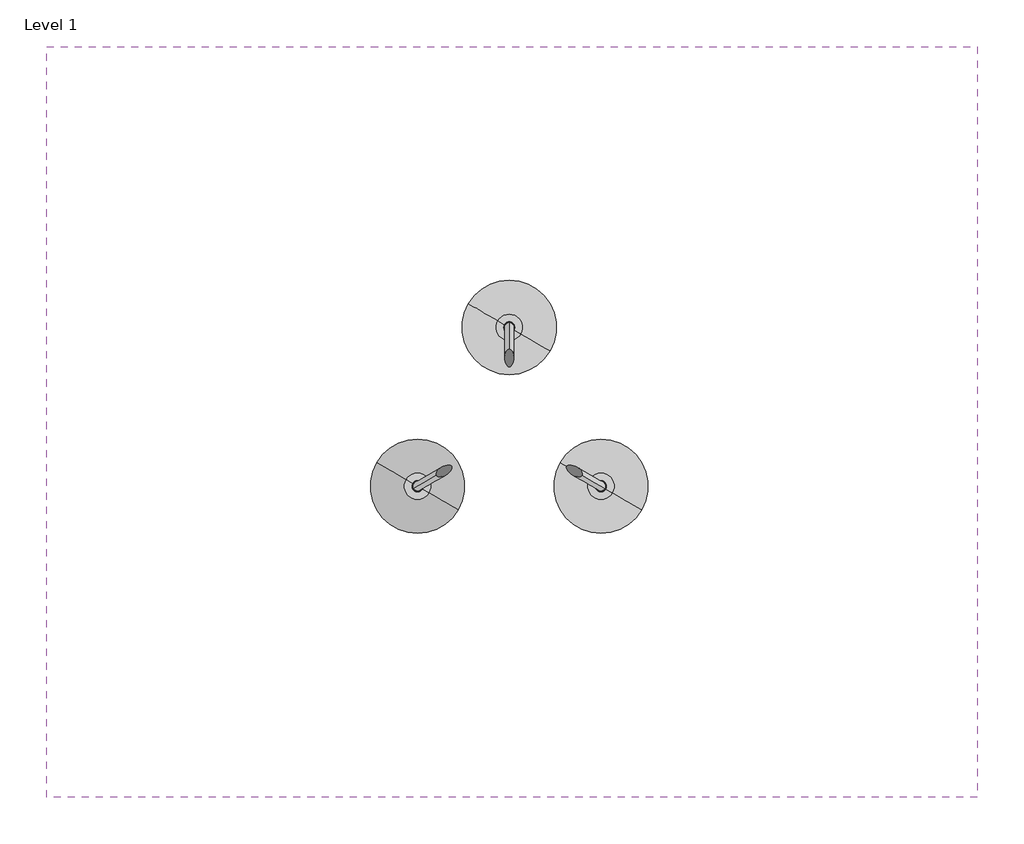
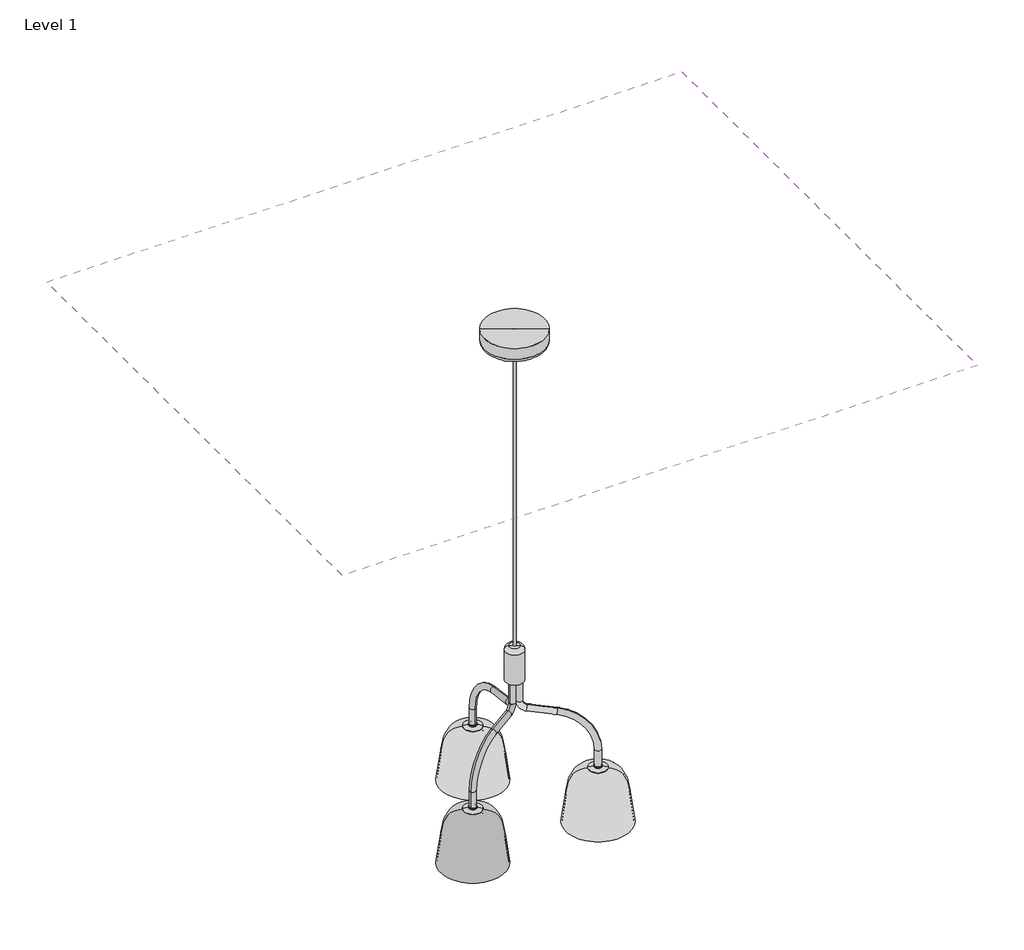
# One storey: 1 covering, 1 light fixture.
"""IFC4 building model written with IfcOpenShell, lengths in millimetres."""

from ifc_helpers import new_model, si_unit, frame, origin, place, context, project, spatial, polyline, outline, extrude, transform, mapped, element, save
from components import light_fixture_08d55318, light_fixture_d8af2c10

model = new_model("IFC4")

# Units and contexts
model_context = context("Model", 3, world=origin())
ifc_project = project(units=[si_unit("LENGTHUNIT", "METRE", prefix="MILLI")], contexts=[model_context])

# Site, building, storey
site = spatial("IfcSite", under=ifc_project)
building = spatial("IfcBuilding", under=site)
storey = spatial("IfcBuildingStorey", under=building, Name="Level 1", Elevation=0.0)

# Covering
placement = place(None, origin())
element("IfcCovering", 1, ObjectType="600 x 1200mm Grid", at=placement, inside=storey, context=model_context, shape_type="SweptSolid", body=[
    extrude(outline(polyline([(-13240.883584, 6561.1087432), (-13240.883584, 5561.1087432), (-14480.883584, 5561.1087432), (-14480.883584, 6561.1087432), (-13240.883584, 6561.1087432)])), frame((0.0, 0.0, 2000.0), z_axis=(0.0, 0.0, 1.0), x_axis=(1.0, 0.0, 0.0)), (0.0, 0.0, 1.0), 52.0),
])

# Light fixture
light_fixture_shape = light_fixture_08d55318(model_context)
light_fixture_2_shape = light_fixture_d8af2c10(model_context)
element("IfcLightFixture", 2, ObjectType="Nuura - Asteea 3 - Ceiling Based : Nuura - Asteea 3 - Ceiling Based", at=placement, inside=storey, context=model_context, shape_type="MappedRepresentation", body=[
    mapped(light_fixture_shape, transform((-13864.5490827, 6046.1064861, -438.4), x_axis=(0.8660254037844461, -0.4999999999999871, 0.0), y_axis=(0.4999999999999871, 0.8660254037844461, 0.0), z_axis=(0.0, 0.0, 1.0))),
    mapped(light_fixture_2_shape, transform((-13864.5490827, 6046.1064861, -438.4), x_axis=(0.8660254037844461, -0.4999999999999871, 0.0), y_axis=(0.4999999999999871, 0.8660254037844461, 0.0), z_axis=(0.0, 0.0, 1.0))),
])

save(model, "model.ifc")
